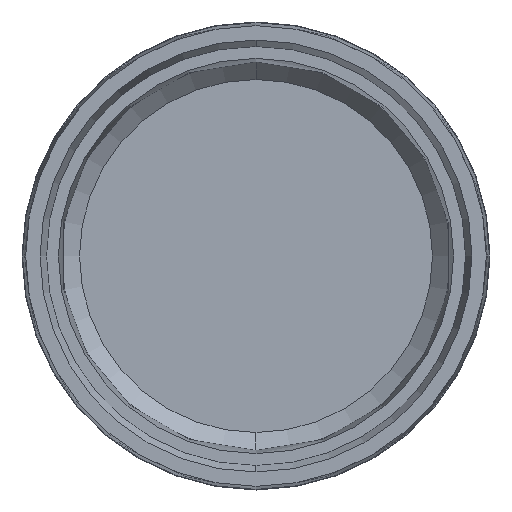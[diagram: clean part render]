
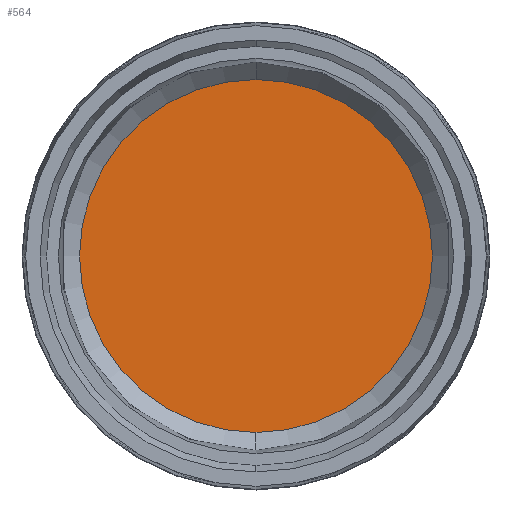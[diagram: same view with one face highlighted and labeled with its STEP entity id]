
A CAD part, front view. The second image highlights one B-rep face of the part: STEP entity #564.
In plain terms, the highlighted planar face has unit normal (0, -1, 0).
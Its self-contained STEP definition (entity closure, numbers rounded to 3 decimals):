
#41 = CARTESIAN_POINT ( 'NONE',  ( 0., 18., -14.738 ) ) ;
#69 = EDGE_CURVE ( 'NONE', #510, #223, #336, .T. ) ;
#126 = DIRECTION ( 'NONE',  ( 0., -1., 0. ) ) ;
#173 = DIRECTION ( 'NONE',  ( 0., 0., -1. ) ) ;
#177 = DIRECTION ( 'NONE',  ( 0., -1., 0. ) ) ;
#223 = VERTEX_POINT ( 'NONE', #380 ) ;
#263 = CIRCLE ( 'NONE', #371, 14.738 ) ;
#301 = AXIS2_PLACEMENT_3D ( 'NONE', #475, #126, #689 ) ;
#310 = AXIS2_PLACEMENT_3D ( 'NONE', #570, #605, #678 ) ;
#336 = CIRCLE ( 'NONE', #301, 14.738 ) ;
#360 = CARTESIAN_POINT ( 'NONE',  ( 0., 18., 0. ) ) ;
#371 = AXIS2_PLACEMENT_3D ( 'NONE', #360, #177, #173 ) ;
#380 = CARTESIAN_POINT ( 'NONE',  ( 0., 18., 14.738 ) ) ;
#398 = PLANE ( 'NONE',  #310 ) ;
#475 = CARTESIAN_POINT ( 'NONE',  ( 0., 18., 0. ) ) ;
#510 = VERTEX_POINT ( 'NONE', #41 ) ;
#545 = EDGE_LOOP ( 'NONE', ( #557, #699 ) ) ;
#557 = ORIENTED_EDGE ( 'NONE', *, *, #69, .T. ) ;
#564 = ADVANCED_FACE ( 'NONE', ( #663 ), #398, .F. ) ;
#570 = CARTESIAN_POINT ( 'NONE',  ( 0., 18., 0. ) ) ;
#588 = EDGE_CURVE ( 'NONE', #223, #510, #263, .T. ) ;
#605 = DIRECTION ( 'NONE',  ( 0., 1., 0. ) ) ;
#663 = FACE_OUTER_BOUND ( 'NONE', #545, .T. ) ;
#678 = DIRECTION ( 'NONE',  ( 0., 0., 1. ) ) ;
#689 = DIRECTION ( 'NONE',  ( 0., 0., -1. ) ) ;
#699 = ORIENTED_EDGE ( 'NONE', *, *, #588, .T. ) ;
